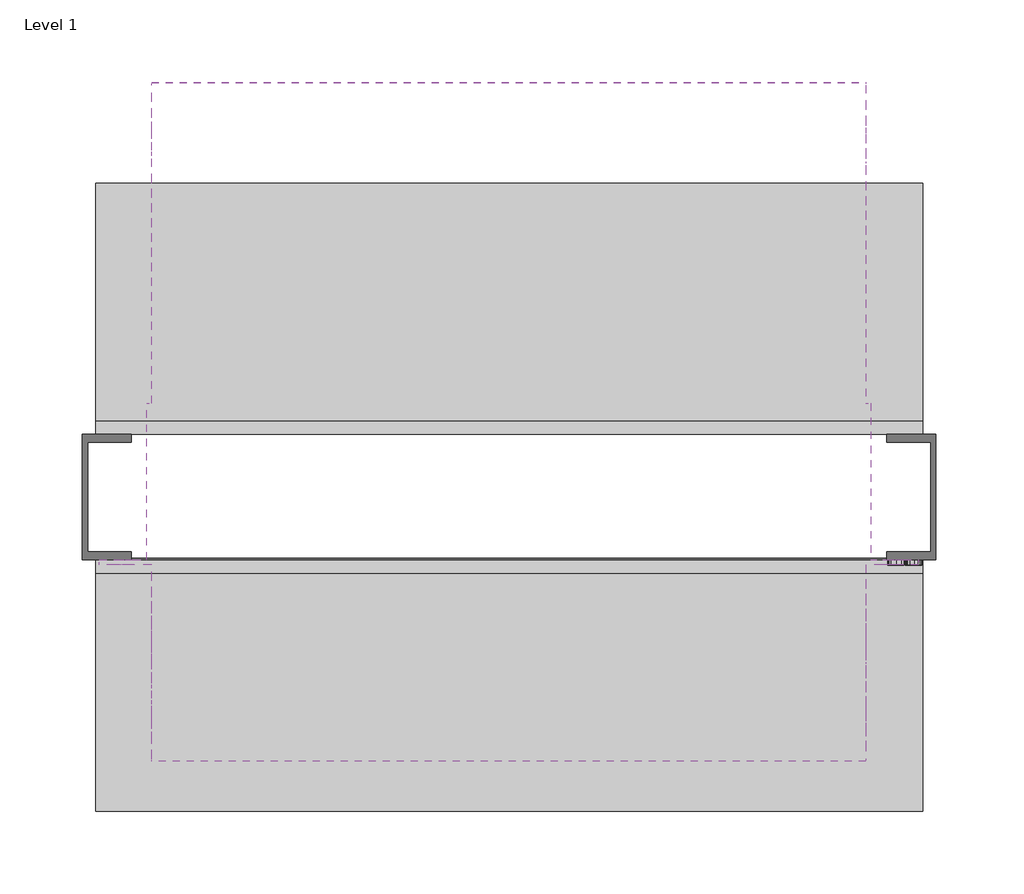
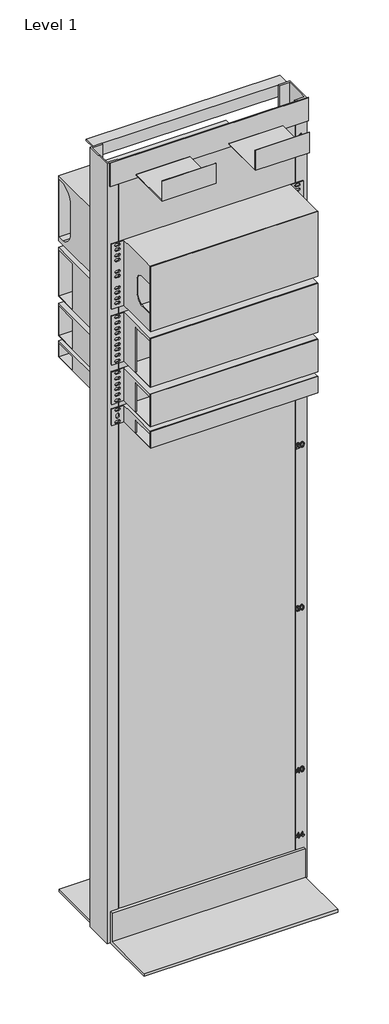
# One storey: 5 electric appliances.
"""IFC4 building model written with IfcOpenShell, lengths in millimetres."""

from ifc_helpers import new_model, si_unit, origin, place, context, project, spatial, transform, mapped, element, save
from components import electric_appliance_1_ru_e4088363, electric_appliance_2_ru_f6e7ead4, electric_appliance_3_ru_ccd869d3, electric_appliance_4_ru_fc891053, electric_appliance_44_ru_275b943b

model = new_model("IFC4")

# Units and contexts
model_context = context("Model", 3, world=origin())
ifc_project = project(units=[si_unit("LENGTHUNIT", "METRE", prefix="MILLI")], contexts=[model_context])

# Site, building, storey
site = spatial("IfcSite", under=ifc_project)
building = spatial("IfcBuilding", under=site)
storey = spatial("IfcBuildingStorey", under=building, Name="Level 1", Elevation=0.0)

# Electric appliances
placement = place(None, origin())
electric_appliance_1_ru_shape = electric_appliance_1_ru_e4088363(model_context)
element("IfcElectricAppliance", 1, ObjectType="Housing-Rack_Mount-Corning-LANScape : 1 RU", at=placement, inside=storey, context=model_context, shape_type="MappedRepresentation", body=[
    mapped(electric_appliance_1_ru_shape, transform((715.9073384, 7362.182811, 1460.0741608), x_axis=(1.0, 0.0, 0.0), y_axis=(0.0, 0.0, 1.0), z_axis=(0.0, -1.0, 0.0))),
])
electric_appliance_2_ru_shape = electric_appliance_2_ru_f6e7ead4(model_context)
element("IfcElectricAppliance", 2, ObjectType="Housing-Rack_Mount-Corning-LANScape : 2 RU", at=placement, inside=storey, context=model_context, shape_type="MappedRepresentation", body=[
    mapped(electric_appliance_2_ru_shape, transform((715.9073384, 7362.182811, 1562.1821608), x_axis=(1.0, 0.0, 0.0), y_axis=(0.0, 0.0, 1.0), z_axis=(0.0, -1.0, 0.0))),
])
electric_appliance_3_ru_shape = electric_appliance_3_ru_ccd869d3(model_context)
element("IfcElectricAppliance", 3, ObjectType="Housing-Rack_Mount-Corning-LANScape : 3 RU", at=placement, inside=storey, context=model_context, shape_type="MappedRepresentation", body=[
    mapped(electric_appliance_3_ru_shape, transform((715.9073384, 7362.182811, 1714.5821608), x_axis=(1.0, 0.0, 0.0), y_axis=(0.0, 0.0, 1.0), z_axis=(0.0, -1.0, 0.0))),
])
electric_appliance_4_ru_shape = electric_appliance_4_ru_fc891053(model_context)
element("IfcElectricAppliance", 4, ObjectType="Housing-Rack_Mount-Corning-LANScape : 4 RU", at=placement, inside=storey, context=model_context, shape_type="MappedRepresentation", body=[
    mapped(electric_appliance_4_ru_shape, transform((715.9073384, 7362.182811, 1911.4321608), x_axis=(1.0, 0.0, 0.0), y_axis=(0.0, 0.0, 1.0), z_axis=(0.0, -1.0, 0.0))),
])
electric_appliance_44_ru_shape = electric_appliance_44_ru_275b943b(model_context)
element("IfcElectricAppliance", 5, ObjectType="Rack-2_Post-Corning-CDF : 44 RU", at=placement, inside=storey, context=model_context, shape_type="MappedRepresentation", body=[
    mapped(electric_appliance_44_ru_shape, transform((716.135961, 7432.7256111, 0.0), x_axis=(1.0, 0.0, 0.0), y_axis=(0.0, 1.0, 0.0), z_axis=(0.0, 0.0, 1.0))),
])

save(model, "model.ifc")
